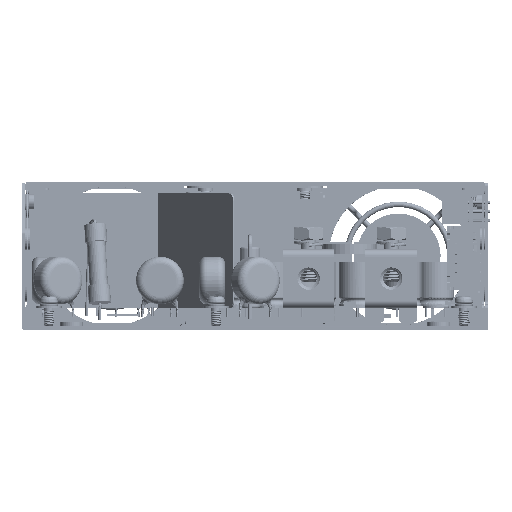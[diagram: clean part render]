
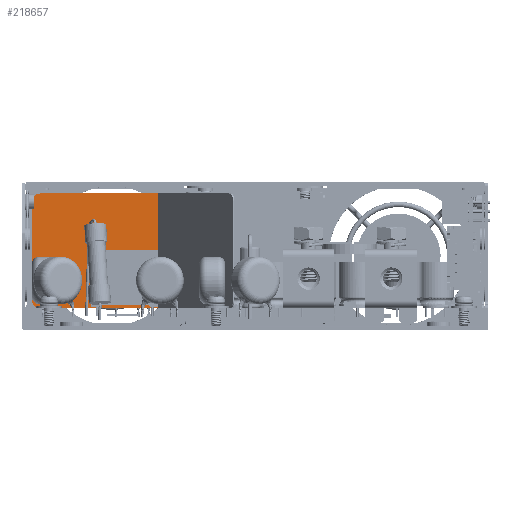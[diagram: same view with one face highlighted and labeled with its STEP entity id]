
A CAD part, left-side view. The second image highlights one B-rep face of the part: STEP entity #218657.
In plain terms, the highlighted planar face has unit normal (-1, 0, 0).
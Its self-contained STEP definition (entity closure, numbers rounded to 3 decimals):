
#216886=CARTESIAN_POINT('',(51.243,134.668,
-21.98));
#216887=DIRECTION('',(-1.,0.,0.));
#216888=DIRECTION('',(0.,0.,1.));
#216889=AXIS2_PLACEMENT_3D('',#216886,#216887,#216888);
#216891=DIRECTION('',(0.,1.,0.));
#216892=VECTOR('',#216891,32.241);
#216893=CARTESIAN_POINT('',(51.243,102.427,
-19.98));
#216894=LINE('',#216893,#216892);
#216895=DIRECTION('',(0.,0.,1.));
#216896=VECTOR('',#216895,31.17);
#216897=CARTESIAN_POINT('',(51.243,102.427,
-51.149));
#216898=LINE('',#216897,#216896);
#216899=DIRECTION('',(0.,-1.,0.));
#216900=VECTOR('',#216899,32.241);
#216901=CARTESIAN_POINT('',(51.243,134.668,
-51.149));
#216902=LINE('',#216901,#216900);
#216903=CARTESIAN_POINT('',(51.243,134.668,
-49.149));
#216904=DIRECTION('',(-1.,0.,0.));
#216905=DIRECTION('',(0.,1.,0.));
#216906=AXIS2_PLACEMENT_3D('',#216903,#216904,#216905);
#216916=DIRECTION('',(0.,0.,1.));
#216917=VECTOR('',#216916,27.17);
#216918=CARTESIAN_POINT('',(51.243,136.668,
-49.149));
#216919=LINE('',#216918,#216917);
#217604=CARTESIAN_POINT('',(51.243,102.427,
-51.149));
#217605=VERTEX_POINT('',#217604);
#217606=CARTESIAN_POINT('',(51.243,134.668,
-51.149));
#217607=VERTEX_POINT('',#217606);
#217626=CARTESIAN_POINT('',(51.243,102.427,
-19.98));
#217627=VERTEX_POINT('',#217626);
#217630=CARTESIAN_POINT('',(51.243,134.668,
-19.98));
#217631=VERTEX_POINT('',#217630);
#217632=CARTESIAN_POINT('',(51.243,136.668,
-21.98));
#217633=VERTEX_POINT('',#217632);
#217634=CARTESIAN_POINT('',(51.243,136.668,
-49.149));
#217635=VERTEX_POINT('',#217634);
#218641=CARTESIAN_POINT('',(51.243,119.548,
-35.565));
#218642=DIRECTION('',(1.,0.,0.));
#218643=DIRECTION('',(0.,-1.,0.));
#218644=AXIS2_PLACEMENT_3D('',#218641,#218642,#218643);
#218645=PLANE('',#218644);
#218647=ORIENTED_EDGE('',*,*,#218646,.F.);
#218648=ORIENTED_EDGE('',*,*,#218568,.F.);
#218649=ORIENTED_EDGE('',*,*,#218601,.F.);
#218650=ORIENTED_EDGE('',*,*,#218529,.F.);
#218652=ORIENTED_EDGE('',*,*,#218651,.F.);
#218654=ORIENTED_EDGE('',*,*,#218653,.T.);
#218655=EDGE_LOOP('',(#218647,#218648,#218649,#218650,#218652,#218654));
#218656=FACE_OUTER_BOUND('',#218655,.F.);
#216890=CIRCLE('',#216889,2.);
#216907=CIRCLE('',#216906,2.);
#218529=EDGE_CURVE('',#217607,#217605,#216902,.T.);
#218568=EDGE_CURVE('',#217627,#217631,#216894,.T.);
#218601=EDGE_CURVE('',#217605,#217627,#216898,.T.);
#218646=EDGE_CURVE('',#217631,#217633,#216890,.T.);
#218651=EDGE_CURVE('',#217635,#217607,#216907,.T.);
#218653=EDGE_CURVE('',#217635,#217633,#216919,.T.);
#218657=ADVANCED_FACE('',(#218656),#218645,.F.);
